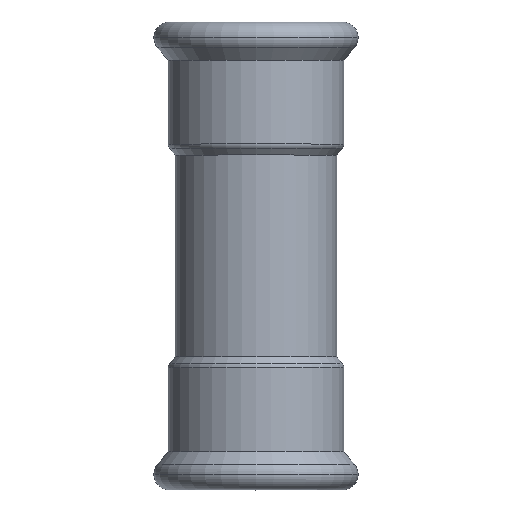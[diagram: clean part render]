
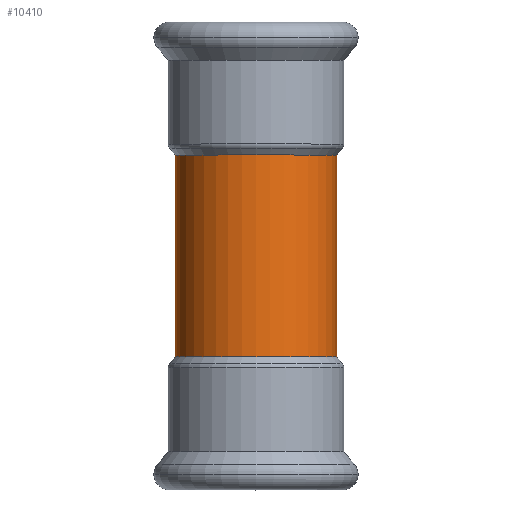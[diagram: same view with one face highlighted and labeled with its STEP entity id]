
A CAD part, top view. The second image highlights one B-rep face of the part: STEP entity #10410.
In plain terms, the highlighted cylindrical face has radius 17.594 mm (diameter 35.189 mm), a partial arc.
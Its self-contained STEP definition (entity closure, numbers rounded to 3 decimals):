
#2640=CARTESIAN_POINT('',(-220.571,11.121,
22.));
#2650=VERTEX_POINT('',#2640);
#2830=CARTESIAN_POINT('',(-185.382,11.121,
22.));
#2840=VERTEX_POINT('',#2830);
#2870=CARTESIAN_POINT('',(-202.976,11.121,
22.));
#2880=DIRECTION('',(0.,0.,1.));
#2890=DIRECTION('',(1.,0.,0.));
#2900=AXIS2_PLACEMENT_3D('',#2870,#2880,#2890);
#2910=CIRCLE('',#2900,17.594);
#2920=EDGE_CURVE('',#2650,#2840,#2910,.T.);
#4400=CARTESIAN_POINT('',(-185.382,11.121,
-22.));
#4410=VERTEX_POINT('',#4400);
#4590=CARTESIAN_POINT('',(-220.571,11.121,
-22.));
#4600=VERTEX_POINT('',#4590);
#4630=CARTESIAN_POINT('',(-202.976,11.121,
-22.));
#4640=DIRECTION('',(0.,0.,-1.));
#4650=DIRECTION('',(-1.,0.,0.));
#4660=AXIS2_PLACEMENT_3D('',#4630,#4640,#4650);
#4670=CIRCLE('',#4660,17.594);
#4680=EDGE_CURVE('',#4410,#4600,#4670,.T.);
#6240=CARTESIAN_POINT('',(-202.976,11.121,
-22.));
#6250=DIRECTION('',(0.,0.,-1.));
#6260=DIRECTION('',(-1.,0.,0.));
#6270=AXIS2_PLACEMENT_3D('',#6240,#6250,#6260);
#6280=CYLINDRICAL_SURFACE('',#6270,17.594);
#10250=CARTESIAN_POINT('',(-185.382,11.121,
-22.));
#10260=DIRECTION('',(0.,0.,-1.));
#10270=VECTOR('',#10260,1.);
#10280=LINE('',#10250,#10270);
#10290=EDGE_CURVE('',#2840,#4410,#10280,.T.);
#10300=ORIENTED_EDGE('',*,*,#10290,.F.);
#10310=ORIENTED_EDGE('',*,*,#4680,.F.);
#10320=CARTESIAN_POINT('',(-220.571,11.121,
-22.));
#10330=DIRECTION('',(0.,0.,-1.));
#10340=VECTOR('',#10330,1.);
#10350=LINE('',#10320,#10340);
#10360=EDGE_CURVE('',#2650,#4600,#10350,.T.);
#10370=ORIENTED_EDGE('',*,*,#10360,.T.);
#10380=ORIENTED_EDGE('',*,*,#2920,.F.);
#10390=EDGE_LOOP('',(#10380,#10370,#10310,#10300));
#10400=FACE_OUTER_BOUND('',#10390,.T.);
#10410=ADVANCED_FACE('',(#10400),#6280,.T.);
